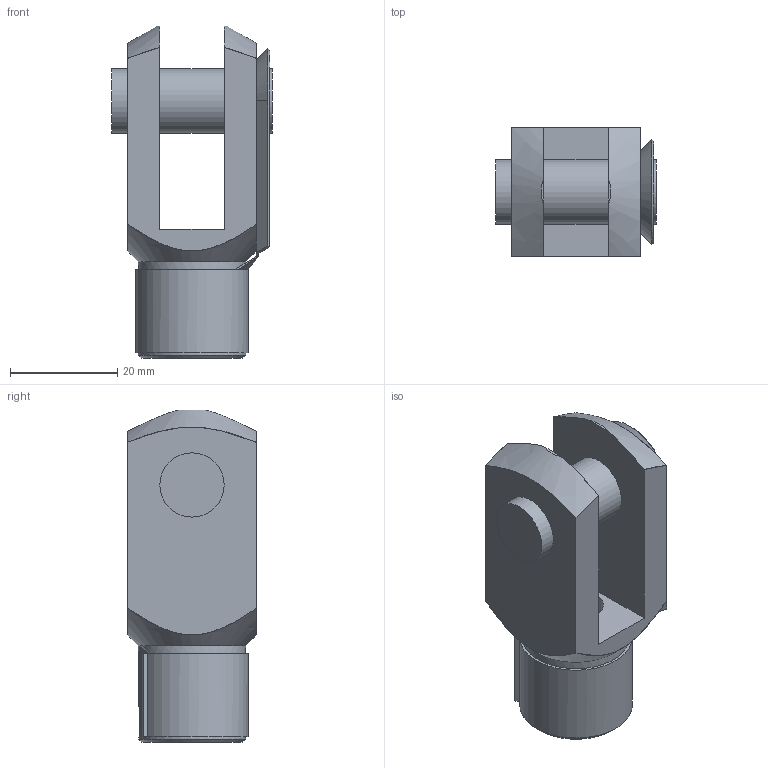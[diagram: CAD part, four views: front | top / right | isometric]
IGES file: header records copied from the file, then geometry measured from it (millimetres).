
Global section: file name: No Iges File Name specified; native system: AutoDesk Inventor R6.0; preprocessor: AutoDesk Inventor Iges Exporter R6.0; author: No Author specified; organization: No Organization specified; date: 20030418.091403; units: millimetre
Bounding box: 30 x 24 x 62 mm (x, y, z)
Surface area: 8674.2 mm2 (no closed solid volume)
Topology: 0 solids, 0 shells, 53 faces, 261 edges, 252 vertices
Faces by surface type: plane 34, revolution 14, bspline 5
